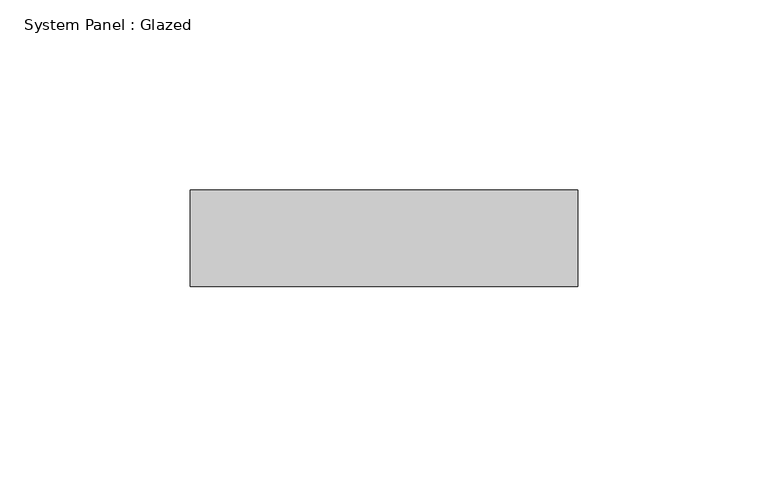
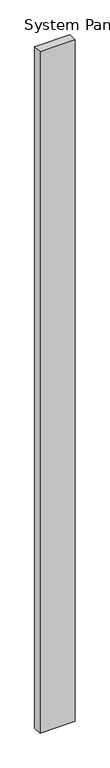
"""IFC4 building model written with IfcOpenShell, lengths in millimetres: plate geometry, System Panel : Glazed."""

from ifc_helpers import new_model, si_unit, origin, origin_with_axes, place, context, project, spatial, polyline, outline, extrude, source, transform, mapped, element, save


def system_panel_glazed_a1d2dedd(model_context):
    return source(origin(), model_context, "Body", "SweptSolid", [
        extrude(outline(polyline([(50.9639823, 19.05), (-50.9639823, 19.05), (-50.9639823, 44.45), (50.9639823, 44.45), (50.9639823, 19.05)])), origin_with_axes(), (0.0, 0.0, 1.0), 2070.1),
    ])


if __name__ == "__main__":
    model = new_model("IFC4")
    model_context = context("Model", 3, world=origin())
    ifc_project = project(units=[si_unit("LENGTHUNIT", "METRE", prefix="MILLI")], contexts=[model_context])
    site = spatial("IfcSite", under=ifc_project)
    building = spatial("IfcBuilding", under=site)
    placement = place(None, origin())
    system_panel_glazed_shape = system_panel_glazed_a1d2dedd(model_context)
    element("IfcPlate", 1, ObjectType="System Panel : Glazed", at=placement, inside=building, context=model_context, shape_type="MappedRepresentation", body=[
        mapped(system_panel_glazed_shape, transform((0.0, 0.0, 0.0), x_axis=(1.0, 0.0, 0.0), y_axis=(0.0, 1.0, 0.0), z_axis=(0.0, 0.0, 1.0))),
    ])
    save(model, "model.ifc")
